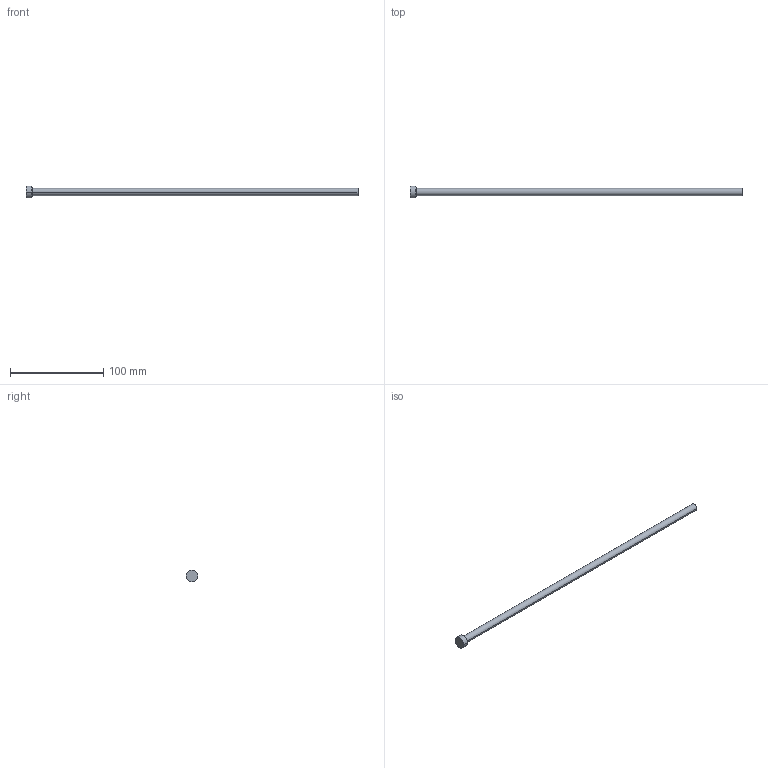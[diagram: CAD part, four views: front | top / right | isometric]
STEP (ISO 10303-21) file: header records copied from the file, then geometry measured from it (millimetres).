
FILE_DESCRIPTION (( 'STEP AP214' ), '1' );
FILE_NAME ('P21-14.STEP', '2020-03-12T09:28:39', ( '' ), ( '' ), 'SwSTEP 2.0', 'SolidWorks 2018', '' );
FILE_SCHEMA (( 'AUTOMOTIVE_DESIGN' ));
Length unit declared in the file: inch
Products named in the file (1): P21-14
Bounding box: 355.6 x 12.7 x 12.7 mm (x, y, z)
Volume: 18056.1 mm3; surface area: 9194.7 mm2
Topology: 1 solids, 1 shells, 13 faces, 24 edges, 14 vertices
Faces by surface type: cone 4, cylinder 4, plane 3, torus 2
Entity records: 366 total; most frequent: DIRECTION 68, CARTESIAN_POINT 52, ORIENTED_EDGE 48, AXIS2_PLACEMENT_3D 30, EDGE_CURVE 24, CIRCLE 16, VERTEX_POINT 14, EDGE_LOOP 14
